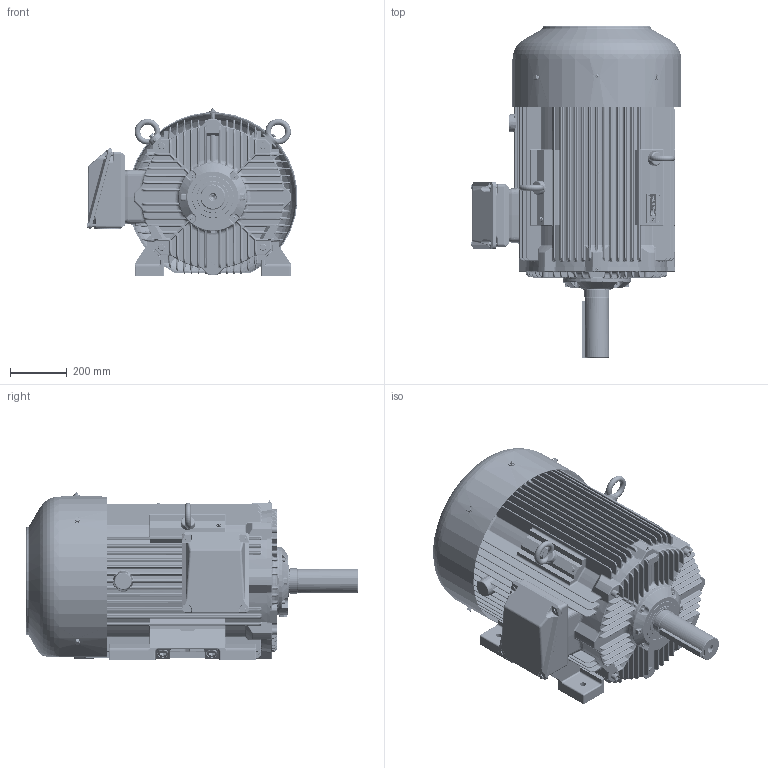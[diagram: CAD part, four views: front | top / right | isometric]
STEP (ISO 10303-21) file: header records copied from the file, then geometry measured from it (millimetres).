
FILE_DESCRIPTION(/* description */ ('Unknown','CAx-IF Rec.Pracs.---Representation and Presentation of Product Manufacturing Information (PMI)---4.0---2014-10-13','CAx-IF Rec.Pracs.---3D Tessellated Geometry---0.4---2014-09-14','2;1'),/* implementation_level */ '2;1');
FILE_NAME(/* name */ 'Silnik_SIE440_T4_6',/* time_stamp */ '2024-07-08T09:31:43+02:00',/* author */ ('Unknown'),/* organization */ ('Unknown'),/* preprocessor_version */ 'ST-DEVELOPER v16.7',/* originating_system */ 'DEX',/* authorisation */ $);
FILE_SCHEMA (('AP242_MANAGED_MODEL_BASED_3D_ENGINEERING_MIM_LF { 1 0 10303 442 20130219 1 4 }'));
Length unit declared in the file: millimetre
Products named in the file (1): Silnik_SIE440_T4_6
Bounding box: 742.2 x 1167.95 x 594.47 mm (x, y, z)
Volume: 118096131 mm3; surface area: 10112353.2 mm2
Topology: 2 solids, 57 shells, 13535 faces, 34718 edges, 21113 vertices
Faces by surface type: plane 6235, cylinder 3351, bspline 1901, torus 1184, cone 461, sphere 403
Full cylindrical faces by diameter (mm): 1.6 x2, 2.459 x2, 2.5 x4, 3 x13, 3.4 x4, 3.5 x4, 4.917 x2, 5 x7, 6.2 x14, 6.35 x3, 6.4 x2, 6.466 x4, 6.647 x16, 8 x23, 8.376 x9, 8.8 x1, 8.917 x4, 9 x16, 9.853 x4, 10 x16, 10.106 x8, 10.5 x5, 11.63 x4, 12 x12, 13 x4, 13.835 x9, 14 x9, 14.63 x9, 16 x8, 17.294 x1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
Entity records: 572644 total; most frequent: CARTESIAN_POINT 163660, ORIENTED_EDGE 66458, DIRECTION 61437, EDGE_CURVE 33229, AXIS2_PLACEMENT_3D 21483, VERTEX_POINT 20699, LINE 18471, VECTOR 18471
